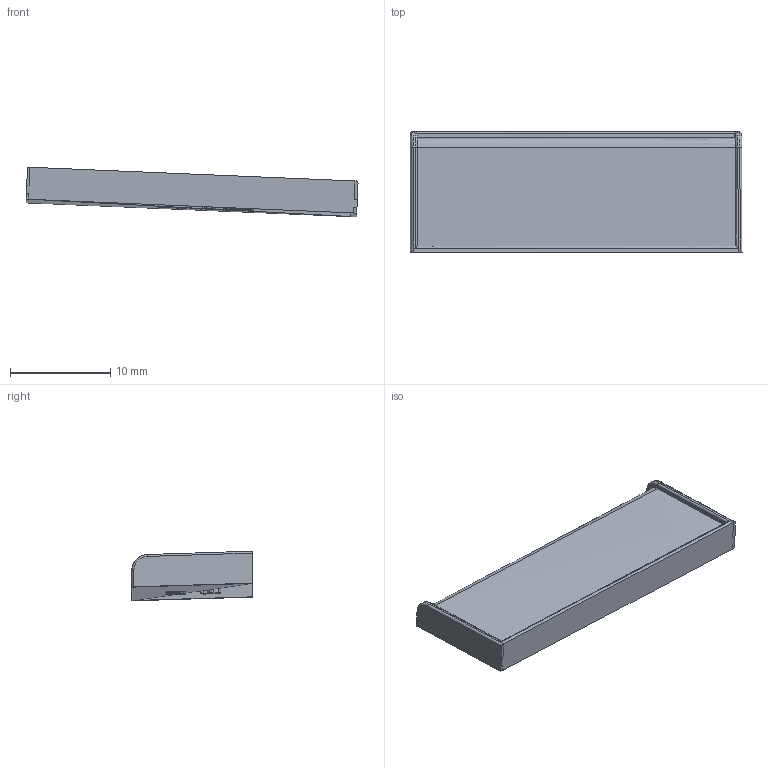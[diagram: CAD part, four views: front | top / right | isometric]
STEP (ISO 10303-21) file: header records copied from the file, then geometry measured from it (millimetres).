
FILE_DESCRIPTION(/* description */ ('','CAx-IF Rec.Pracs.---Representation and Presentation of Product Manufacturing Information (PMI)---4.0---2014-10-13'),/* implementation_level */ '2;1');
FILE_NAME(/* name */ '20elcothrottlecoveringa18222.step',/* time_stamp */ '2025-03-07T13:48:57+11:00',/* author */ (''),/* organization */ (''),/* preprocessor_version */ 'ST-DEVELOPER v20',/* originating_system */ 'Autodesk Translation Framework v13.20.0.188',/* authorisation */ '');
FILE_SCHEMA (('AP242_MANAGED_MODEL_BASED_3D_ENGINEERING_MIM_LF { 1 0 10303 442 1 1 4 }'));
Length unit declared in the file: millimetre
Products named in the file (1): Elco Throttle Deck Covering
Bounding box: 33.16 x 12.01 x 4.96 mm (x, y, z)
Volume: 998.7 mm3; surface area: 1105.2 mm2
Topology: 1 solids, 1 shells, 226 faces, 633 edges, 421 vertices
Faces by surface type: bspline 141, plane 80, cylinder 5
Entity records: 12377 total; most frequent: CARTESIAN_POINT 7757, ORIENTED_EDGE 1266, EDGE_CURVE 633, VERTEX_POINT 421, B_SPLINE_CURVE_WITH_KNOTS 415, DIRECTION 398, EDGE_LOOP 238, FACE_OUTER_BOUND 226
